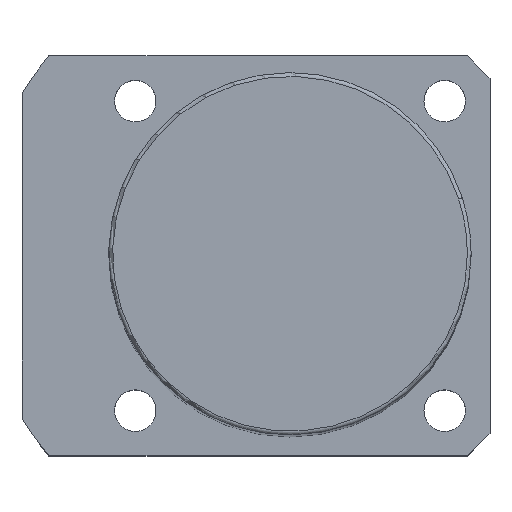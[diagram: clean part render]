
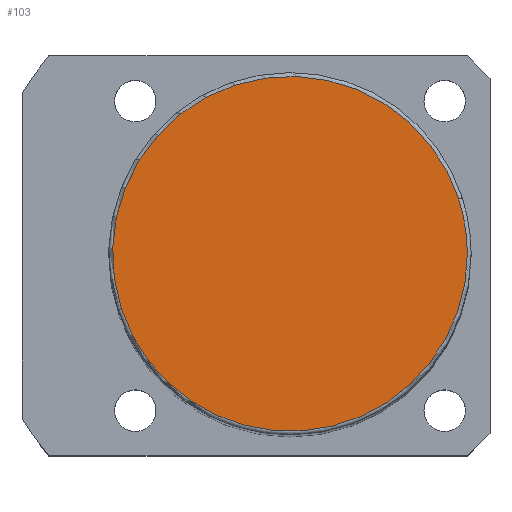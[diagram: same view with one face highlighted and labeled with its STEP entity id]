
A CAD part, top view. The second image highlights one B-rep face of the part: STEP entity #103.
In plain terms, the highlighted planar face has unit normal (0, 0, 1).
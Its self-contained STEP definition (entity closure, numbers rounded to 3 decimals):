
#16=CARTESIAN_POINT('',(-22.35,-7.262,169.0));
#17=VERTEX_POINT('',#16);
#54=CARTESIAN_POINT('',(22.35,7.262,169.0));
#55=VERTEX_POINT('',#54);
#63=CARTESIAN_POINT('',(23.5,0.0,169.0));
#64=VERTEX_POINT('',#63);
#65=CARTESIAN_POINT('',(0.0,0.0,169.0));
#66=DIRECTION('',(0.0,0.0,1.0));
#67=DIRECTION('',(1.0,0.0,0.0));
#68=AXIS2_PLACEMENT_3D('',#65,#66,#67);
#69=CIRCLE('',#68,23.5);
#70=EDGE_CURVE('no 898',#64,#55,#69,.T.);
#72=CARTESIAN_POINT('',(0.0,0.0,169.0));
#73=DIRECTION('',(0.0,0.0,1.0));
#74=DIRECTION('',(1.0,0.0,0.0));
#75=AXIS2_PLACEMENT_3D('',#72,#73,#74);
#76=CIRCLE('',#75,23.5);
#77=EDGE_CURVE('no 902',#17,#64,#76,.T.);
#87=ORIENTED_EDGE('',*,*,#70,.T.);
#88=CARTESIAN_POINT('',(0.0,0.0,169.0));
#89=DIRECTION('',(0.0,0.0,1.0));
#90=DIRECTION('',(1.0,0.0,0.0));
#91=AXIS2_PLACEMENT_3D('',#88,#89,#90);
#92=CIRCLE('',#91,23.5);
#93=EDGE_CURVE('no 911',#55,#17,#92,.T.);
#94=ORIENTED_EDGE('',*,*,#93,.T.);
#95=ORIENTED_EDGE('',*,*,#77,.T.);
#96=EDGE_LOOP('',(#87,#94,#95));
#97=FACE_OUTER_BOUND('',#96,.T.);
#98=CARTESIAN_POINT('',(0.0,0.0,169.0));
#99=DIRECTION('',(0.0,0.0,1.0));
#100=DIRECTION('',(1.0,0.0,0.0));
#101=AXIS2_PLACEMENT_3D('',#98,#99,#100);
#102=PLANE('',#101);
#103=ADVANCED_FACE('no 904',(#97),#102,.T.);
